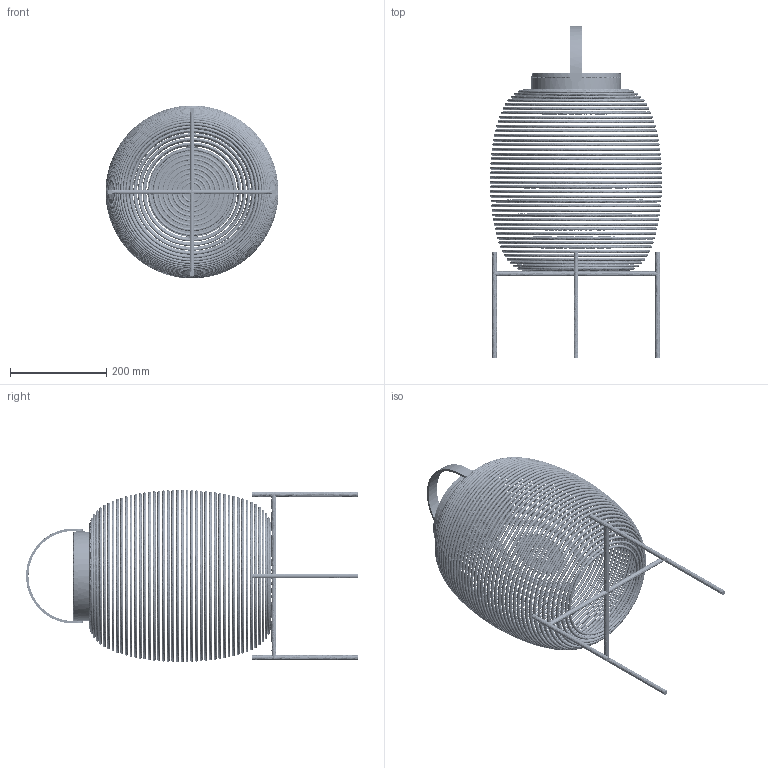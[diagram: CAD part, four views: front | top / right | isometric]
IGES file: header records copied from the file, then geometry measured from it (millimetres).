
Global section: file name: Tika Lantern Steel Base Small; native system: unknown; preprocessor: unknown; author: unknown; organization: unknown; date: 20200120.170806; units: millimetre
Bounding box: 359.95 x 691.01 x 359.94 mm (x, y, z)
Volume: 1966468.3 mm3; surface area: 1303209 mm2
Topology: 76 solids, 77 shells, 2012 faces, 5367 edges, 3493 vertices
Faces by surface type: bspline 2012
